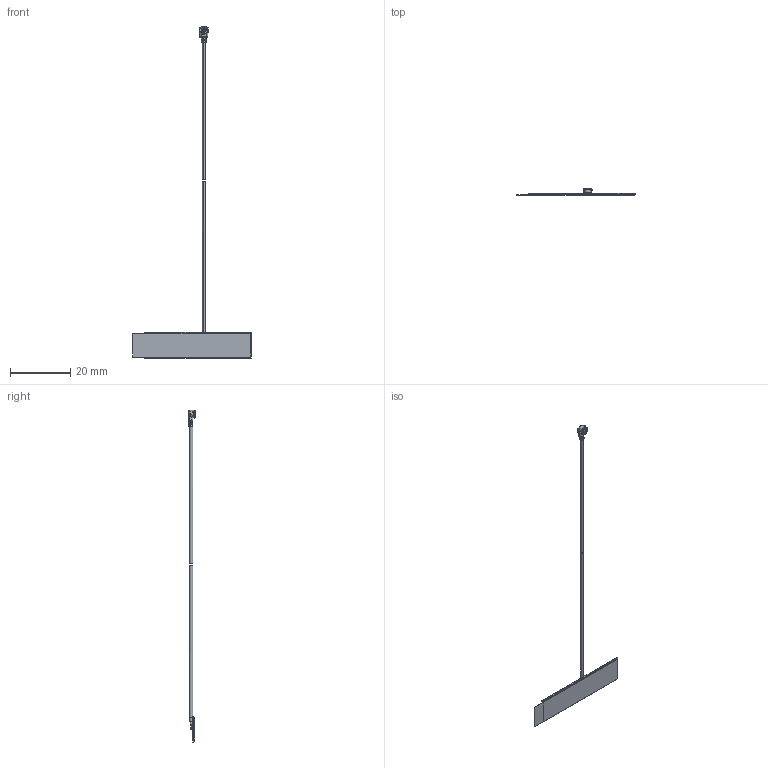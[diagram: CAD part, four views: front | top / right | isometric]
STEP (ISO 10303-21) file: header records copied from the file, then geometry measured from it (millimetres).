
FILE_DESCRIPTION((''),'2;1');
FILE_NAME('W7P35X8W04-UXXXD3B0A_ME_FIT_2','2024-02-13T14:49:10',('ycollin'),(''),'CREO PARAMETRIC BY PTC INC, 2023072','CREO PARAMETRIC BY PTC INC, 2023072','');
FILE_SCHEMA(('CONFIG_CONTROL_DESIGN'));
Length unit declared in the file: millimetre
Products named in the file (1): W7P35X8W04-UXXXD3B0A_ME_FIT_2
Bounding box: 39.2 x 2.1 x 109.84 mm (x, y, z)
Volume: 298.2 mm3; surface area: 1132.6 mm2
Topology: 2 solids, 2 shells, 390 faces, 1047 edges, 673 vertices
Faces by surface type: plane 229, cylinder 90, extrusion 25, cone 22, bspline 12, torus 10, sphere 2
Entity records: 13183 total; most frequent: CARTESIAN_POINT 3621, ORIENTED_EDGE 2086, DIRECTION 1797, EDGE_CURVE 1043, VECTOR 715, LINE 690, VERTEX_POINT 673, AXIS2_PLACEMENT_3D 541
